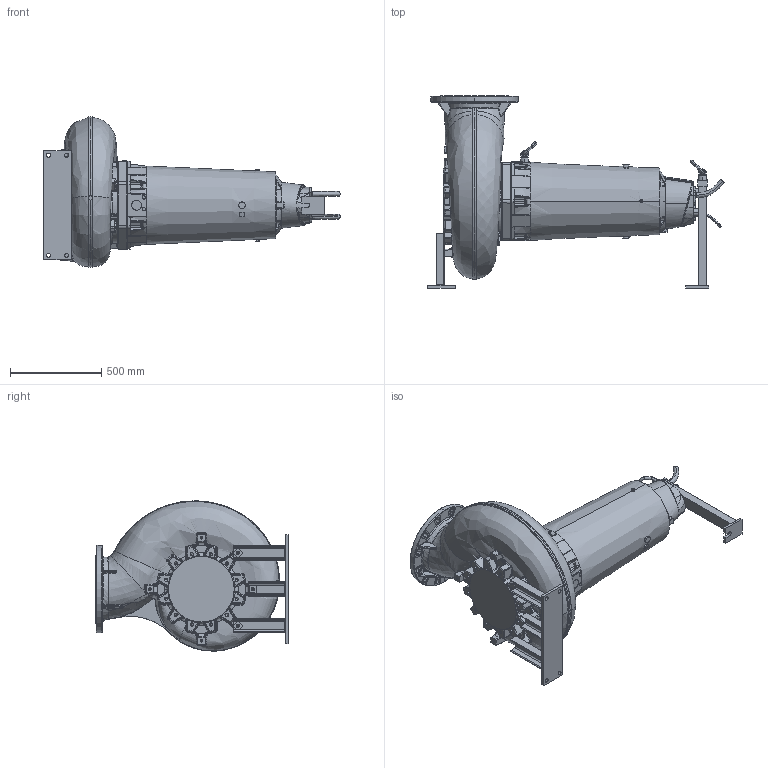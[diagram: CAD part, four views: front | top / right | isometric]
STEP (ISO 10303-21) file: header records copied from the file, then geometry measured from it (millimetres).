
FILE_DESCRIPTION (( 'STEP AP214' ), '1' );
FILE_NAME ('PE4_XFP300J-CH2_DRY HA_B_NG2.STEP', '2017-03-15T10:01:14', ( '' ), ( '' ), 'SwSTEP 2.0', 'SolidWorks 2017', '' );
FILE_SCHEMA (( 'AUTOMOTIVE_DESIGN' ));
Length unit declared in the file: millimetre
Products named in the file (1): PE4_XFP300J-CH2_DRY HA_B_NG2
Bounding box: 1625.58 x 1057.01 x 824.2 mm (x, y, z)
Volume: 275697082.8 mm3; surface area: 4260395.6 mm2
Topology: 5 solids, 7 shells, 2337 faces, 5821 edges, 3426 vertices
Faces by surface type: bspline 826, cylinder 522, plane 430, cone 258, torus 243, sphere 58
Entity records: 171456 total; most frequent: CARTESIAN_POINT 97246, ORIENTED_EDGE 11398, DIRECTION 8568, EDGE_CURVE 5699, AXIS2_PLACEMENT_3D 3605, VERTEX_POINT 3422, EDGE_LOOP 2449, UNCERTAINTY_MEASURE_WITH_UNIT 2344
